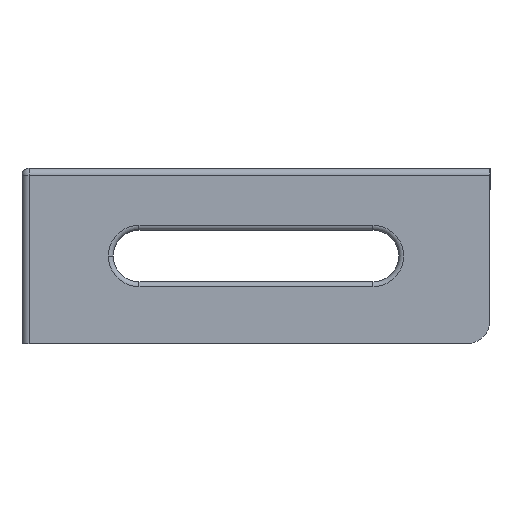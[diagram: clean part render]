
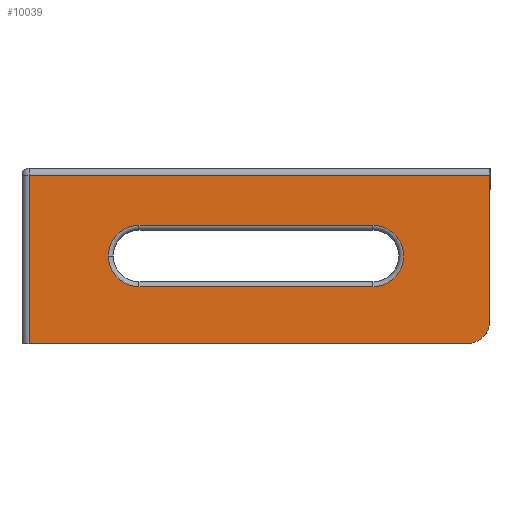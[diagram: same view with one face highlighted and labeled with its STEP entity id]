
A CAD part, front view. The second image highlights one B-rep face of the part: STEP entity #10039.
In plain terms, the highlighted planar face has unit normal (0, -1, 0).
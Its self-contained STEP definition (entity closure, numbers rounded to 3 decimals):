
#75 = DIRECTION ( 'NONE',  ( -1., 0., 0. ) ) ;
#81 = VERTEX_POINT ( 'NONE', #11892 ) ;
#555 = EDGE_CURVE ( 'NONE', #10228, #14956, #13773, .T. ) ;
#603 = ORIENTED_EDGE ( 'NONE', *, *, #11683, .T. ) ;
#753 = ORIENTED_EDGE ( 'NONE', *, *, #12945, .T. ) ;
#1348 = ORIENTED_EDGE ( 'NONE', *, *, #17323, .T. ) ;
#1612 = VECTOR ( 'NONE', #11212, 1000. ) ;
#1614 = VERTEX_POINT ( 'NONE', #19831 ) ;
#1731 = EDGE_CURVE ( 'NONE', #4092, #18621, #4831, .T. ) ;
#1922 = EDGE_CURVE ( 'NONE', #81, #8505, #12057, .T. ) ;
#2100 = DIRECTION ( 'NONE',  ( -1., 0., 0. ) ) ;
#2696 = EDGE_CURVE ( 'NONE', #8505, #18621, #17593, .T. ) ;
#2998 = CIRCLE ( 'NONE', #18925, 13.075 ) ;
#3467 = CARTESIAN_POINT ( 'NONE',  ( 200., 0., 75. ) ) ;
#3637 = VECTOR ( 'NONE', #2100, 1000. ) ;
#3802 = EDGE_LOOP ( 'NONE', ( #1348, #603, #17452, #753, #20319 ) ) ;
#3993 = LINE ( 'NONE', #10490, #5196 ) ;
#4021 = DIRECTION ( 'NONE',  ( -1., 0., 0. ) ) ;
#4092 = VERTEX_POINT ( 'NONE', #4313 ) ;
#4216 = CARTESIAN_POINT ( 'NONE',  ( 200., 0., 24.425 ) ) ;
#4313 = CARTESIAN_POINT ( 'NONE',  ( 200., 0., 72. ) ) ;
#4585 = AXIS2_PLACEMENT_3D ( 'NONE', #17754, #17435, #12669 ) ;
#4721 = CARTESIAN_POINT ( 'NONE',  ( 50., 0., 37.5 ) ) ;
#4831 = LINE ( 'NONE', #3467, #1612 ) ;
#5002 = ORIENTED_EDGE ( 'NONE', *, *, #2696, .T. ) ;
#5196 = VECTOR ( 'NONE', #20329, 1000. ) ;
#6165 = PLANE ( 'NONE',  #15968 ) ;
#6715 = VERTEX_POINT ( 'NONE', #19100 ) ;
#6877 = DIRECTION ( 'NONE',  ( 1., 0., 0. ) ) ;
#7153 = DIRECTION ( 'NONE',  ( -1., 0., 0. ) ) ;
#7361 = CARTESIAN_POINT ( 'NONE',  ( 200., 0., 10. ) ) ;
#7412 = VERTEX_POINT ( 'NONE', #10796 ) ;
#7492 = ORIENTED_EDGE ( 'NONE', *, *, #16653, .T. ) ;
#7555 = CARTESIAN_POINT ( 'NONE',  ( 3., 0., 75. ) ) ;
#8345 = ORIENTED_EDGE ( 'NONE', *, *, #14480, .T. ) ;
#8505 = VERTEX_POINT ( 'NONE', #18721 ) ;
#8585 = LINE ( 'NONE', #8897, #3637 ) ;
#8822 = LINE ( 'NONE', #4216, #20586 ) ;
#8897 = CARTESIAN_POINT ( 'NONE',  ( 200., 0., 72. ) ) ;
#8946 = CARTESIAN_POINT ( 'NONE',  ( 150., 0., 37.5 ) ) ;
#9567 = DIRECTION ( 'NONE',  ( 0., 1., 0. ) ) ;
#10008 = CARTESIAN_POINT ( 'NONE',  ( 150., 0., 24.425 ) ) ;
#10039 = ADVANCED_FACE ( 'NONE', ( #20688, #10940 ), #6165, .F. ) ;
#10228 = VERTEX_POINT ( 'NONE', #19848 ) ;
#10490 = CARTESIAN_POINT ( 'NONE',  ( 200., 0., 50.575 ) ) ;
#10777 = VECTOR ( 'NONE', #6877, 1000. ) ;
#10796 = CARTESIAN_POINT ( 'NONE',  ( 150., 0., 50.575 ) ) ;
#10940 = FACE_OUTER_BOUND ( 'NONE', #16474, .T. ) ;
#11208 = DIRECTION ( 'NONE',  ( -1., 0., 0. ) ) ;
#11212 = DIRECTION ( 'NONE',  ( 0., 0., -1. ) ) ;
#11320 = CARTESIAN_POINT ( 'NONE',  ( 190., 0., 10. ) ) ;
#11504 = AXIS2_PLACEMENT_3D ( 'NONE', #11320, #14627, #75 ) ;
#11683 = EDGE_CURVE ( 'NONE', #6715, #10228, #2998, .T. ) ;
#11892 = CARTESIAN_POINT ( 'NONE',  ( 3., 0., 0. ) ) ;
#12057 = LINE ( 'NONE', #18514, #10777 ) ;
#12646 = CARTESIAN_POINT ( 'NONE',  ( 200., 0., 75. ) ) ;
#12669 = DIRECTION ( 'NONE',  ( -1., 0., 0. ) ) ;
#12945 = EDGE_CURVE ( 'NONE', #14956, #7412, #3993, .T. ) ;
#13568 = EDGE_CURVE ( 'NONE', #7412, #14577, #13831, .T. ) ;
#13773 = CIRCLE ( 'NONE', #4585, 13.075 ) ;
#13831 = CIRCLE ( 'NONE', #17215, 13.075 ) ;
#13844 = VECTOR ( 'NONE', #14132, 1000. ) ;
#14132 = DIRECTION ( 'NONE',  ( 0., 0., -1. ) ) ;
#14377 = ORIENTED_EDGE ( 'NONE', *, *, #1731, .F. ) ;
#14480 = EDGE_CURVE ( 'NONE', #1614, #81, #19099, .T. ) ;
#14577 = VERTEX_POINT ( 'NONE', #10008 ) ;
#14627 = DIRECTION ( 'NONE',  ( 0., -1., 0. ) ) ;
#14956 = VERTEX_POINT ( 'NONE', #19828 ) ;
#15328 = DIRECTION ( 'NONE',  ( 0., 1., 0. ) ) ;
#15968 = AXIS2_PLACEMENT_3D ( 'NONE', #12646, #9567, #19095 ) ;
#16474 = EDGE_LOOP ( 'NONE', ( #14377, #7492, #8345, #20573, #5002 ) ) ;
#16653 = EDGE_CURVE ( 'NONE', #4092, #1614, #8585, .T. ) ;
#17215 = AXIS2_PLACEMENT_3D ( 'NONE', #8946, #15328, #7153 ) ;
#17323 = EDGE_CURVE ( 'NONE', #14577, #6715, #8822, .T. ) ;
#17435 = DIRECTION ( 'NONE',  ( 0., 1., 0. ) ) ;
#17452 = ORIENTED_EDGE ( 'NONE', *, *, #555, .T. ) ;
#17576 = DIRECTION ( 'NONE',  ( 0., 1., 0. ) ) ;
#17593 = CIRCLE ( 'NONE', #11504, 10. ) ;
#17754 = CARTESIAN_POINT ( 'NONE',  ( 50., 0., 37.5 ) ) ;
#18514 = CARTESIAN_POINT ( 'NONE',  ( 200., 0., 0. ) ) ;
#18621 = VERTEX_POINT ( 'NONE', #7361 ) ;
#18721 = CARTESIAN_POINT ( 'NONE',  ( 190., 0., 0. ) ) ;
#18925 = AXIS2_PLACEMENT_3D ( 'NONE', #4721, #17576, #11208 ) ;
#19095 = DIRECTION ( 'NONE',  ( -1., 0., 0. ) ) ;
#19099 = LINE ( 'NONE', #7555, #13844 ) ;
#19100 = CARTESIAN_POINT ( 'NONE',  ( 50., 0., 24.425 ) ) ;
#19828 = CARTESIAN_POINT ( 'NONE',  ( 50., 0., 50.575 ) ) ;
#19831 = CARTESIAN_POINT ( 'NONE',  ( 3., 0., 72. ) ) ;
#19848 = CARTESIAN_POINT ( 'NONE',  ( 36.925, 0., 37.5 ) ) ;
#20319 = ORIENTED_EDGE ( 'NONE', *, *, #13568, .T. ) ;
#20329 = DIRECTION ( 'NONE',  ( 1., 0., 0. ) ) ;
#20573 = ORIENTED_EDGE ( 'NONE', *, *, #1922, .T. ) ;
#20586 = VECTOR ( 'NONE', #4021, 1000. ) ;
#20688 = FACE_BOUND ( 'NONE', #3802, .T. ) ;
